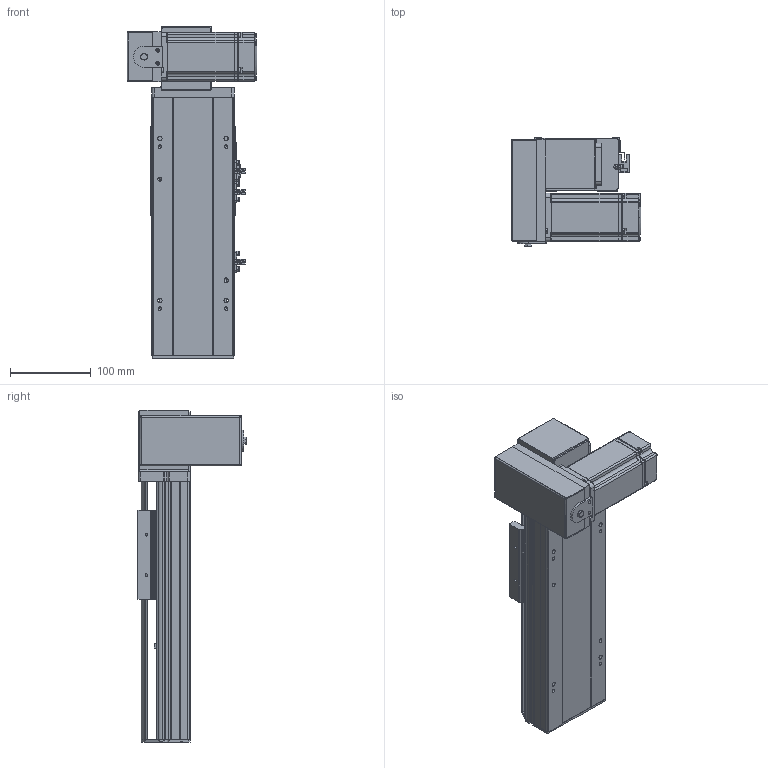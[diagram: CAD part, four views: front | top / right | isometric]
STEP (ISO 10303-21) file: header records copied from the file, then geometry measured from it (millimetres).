
FILE_DESCRIPTION (( 'STEP AP214' ), '1' );
FILE_NAME ('TPT10-L32-100-LD-T10-C4.STEP', '2023-03-02T10:05:36', ( '' ), ( '' ), 'SwSTEP 2.0', 'SolidWorks 2020', '' );
FILE_SCHEMA (( 'AUTOMOTIVE_DESIGN' ));
Length unit declared in the file: millimetre
Products named in the file (12): 葩璃 TPT10-L-009 萇儂啣^TPT10-L32-LD-T10-C4_100W; 葩璃 pm-t65-672^TPT10-L32-LD-T10-C4; 葩璃 TPT10-L-005 賑釱MZ-102A-03^TPT10-L32-LD-T10-C4; hexagon socket head cap screws gb_GB_FASTENER_SCREWS_HSHCS M3X6-N; 葩璃 侂狟400W^TPT10-L32-LD-T10-C4; TPT10-L32-100-LD-T10-C4; 葩璃 TPT10-L-002 奻裔MZ-102A-02^TPT10-L32-LD-T10-C4; hex nuts, style 1-grades ab gb_GB_FASTENER_NUT_SNAB1 M3-N; 葩璃 侂狟100W^TPT10-L32-LD-T10-C4; hexagon head bolts-full thread gb_GB_FASTENER_BOLT_STBAB A M5X16-N; 葩璃 TPT10-L-001 菁釱MZ-102A-01^TPT10-L32-LD-T10-C4; 葩璃 TPT10-L-007 々湍釱MZ-169x88^TPT10-L32-LD-T10-C4_L
Assembly tree (23 placements, depth 2):
  TPT10-L32-100-LD-T10-C4
    葩璃 TPT10-L-001 菁釱MZ-102A-01^TPT10-L32-LD-T10-C4
    葩璃 TPT10-L-002 奻裔MZ-102A-02^TPT10-L32-LD-T10-C4
    葩璃 TPT10-L-007 々湍釱MZ-169x88^TPT10-L32-LD-T10-C4_L
    葩璃 TPT10-L-005 賑釱MZ-102A-03^TPT10-L32-LD-T10-C4
    葩璃 TPT10-L-009 萇儂啣^TPT10-L32-LD-T10-C4_100W
    葩璃 pm-t65-672^TPT10-L32-LD-T10-C4  x3
    葩璃 侂狟100W^TPT10-L32-LD-T10-C4
    葩璃 侂狟400W^TPT10-L32-LD-T10-C4
    hexagon head bolts-full thread gb_GB_FASTENER_BOLT_STBAB A M5X16-N
    hexagon socket head cap screws gb_GB_FASTENER_SCREWS_HSHCS M3X6-N  x6
    hex nuts, style 1-grades ab gb_GB_FASTENER_NUT_SNAB1 M3-N  x6
Bounding box: 160.5 x 134.65 x 410 mm (x, y, z)
Volume: 1903663.5 mm3; surface area: 419762 mm2
Topology: 31 solids, 31 shells, 1829 faces, 4771 edges, 3057 vertices
Faces by surface type: plane 1026, cylinder 575, cone 182, bspline 34, torus 12
Entity records: 45381 total; most frequent: CARTESIAN_POINT 8848, DIRECTION 7442, ORIENTED_EDGE 7190, EDGE_CURVE 3595, AXIS2_PLACEMENT_3D 2596, VERTEX_POINT 2348, VECTOR 2250, LINE 2250
